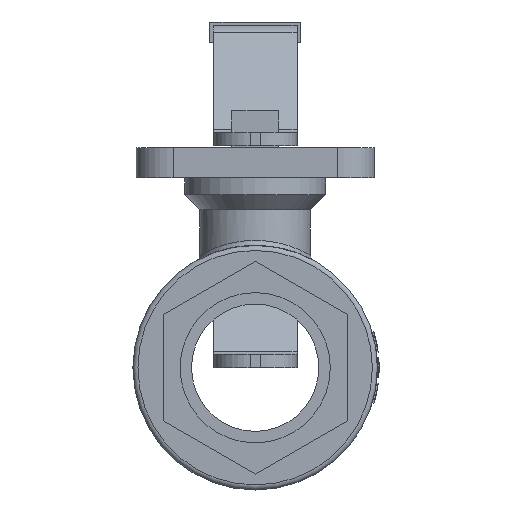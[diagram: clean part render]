
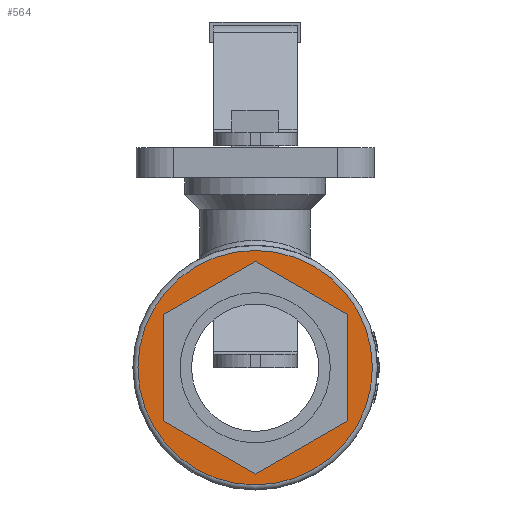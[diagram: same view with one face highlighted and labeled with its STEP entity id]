
A CAD part, left-side view. The second image highlights one B-rep face of the part: STEP entity #564.
In plain terms, the highlighted planar face has unit normal (-1, 0, 0).
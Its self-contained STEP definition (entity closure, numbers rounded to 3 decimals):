
#564 = ADVANCED_FACE( '', ( #1211, #1212 ), #1213, .T. );
#1211 = FACE_OUTER_BOUND( '', #4060, .T. );
#1212 = FACE_BOUND( '', #4061, .T. );
#1213 = PLANE( '', #4062 );
#4060 = EDGE_LOOP( '', ( #6211 ) );
#4061 = EDGE_LOOP( '', ( #6212, #6213, #6214, #6215, #6216, #6217 ) );
#4062 = AXIS2_PLACEMENT_3D( '', #6218, #6219, #6220 );
#6211 = ORIENTED_EDGE( '', *, *, #6694, .T. );
#6212 = ORIENTED_EDGE( '', *, *, #7265, .F. );
#6213 = ORIENTED_EDGE( '', *, *, #6676, .F. );
#6214 = ORIENTED_EDGE( '', *, *, #7266, .F. );
#6215 = ORIENTED_EDGE( '', *, *, #7267, .F. );
#6216 = ORIENTED_EDGE( '', *, *, #7142, .F. );
#6217 = ORIENTED_EDGE( '', *, *, #7159, .F. );
#6218 = CARTESIAN_POINT( '', ( -31.5, 6.875, 11.908 ) );
#6219 = DIRECTION( '', ( -1., 0., 0. ) );
#6220 = DIRECTION( '', ( 0., -1., 0. ) );
#6676 = EDGE_CURVE( '', #7410, #7412, #7413, .T. );
#6694 = EDGE_CURVE( '', #7443, #7443, #7444, .T. );
#7142 = EDGE_CURVE( '', #8162, #8164, #8165, .T. );
#7159 = EDGE_CURVE( '', #8183, #8162, #8185, .T. );
#7265 = EDGE_CURVE( '', #7412, #8183, #8309, .T. );
#7266 = EDGE_CURVE( '', #8310, #7410, #8311, .T. );
#7267 = EDGE_CURVE( '', #8164, #8310, #8312, .T. );
#7410 = VERTEX_POINT( '', #8661 );
#7412 = VERTEX_POINT( '', #8664 );
#7413 = LINE( '', #8665, #8666 );
#7443 = VERTEX_POINT( '', #8715 );
#7444 = CIRCLE( '', #8716, 35. );
#8162 = VERTEX_POINT( '', #12053 );
#8164 = VERTEX_POINT( '', #12056 );
#8165 = LINE( '', #12057, #12058 );
#8183 = VERTEX_POINT( '', #12186 );
#8185 = LINE( '', #12189, #12190 );
#8309 = LINE( '', #12593, #12594 );
#8310 = VERTEX_POINT( '', #12595 );
#8311 = LINE( '', #12596, #12597 );
#8312 = LINE( '', #12598, #12599 );
#8661 = CARTESIAN_POINT( '', ( -31.5, -27.5, -15.877 ) );
#8664 = CARTESIAN_POINT( '', ( -31.5, -27.5, 15.877 ) );
#8665 = CARTESIAN_POINT( '', ( -31.5, -27.5, -15.877 ) );
#8666 = VECTOR( '', #12723, 1000. );
#8715 = CARTESIAN_POINT( '', ( -31.5, -35., 0. ) );
#8716 = AXIS2_PLACEMENT_3D( '', #12733, #12734, #12735 );
#12053 = CARTESIAN_POINT( '', ( -31.5, 27.5, 15.877 ) );
#12056 = CARTESIAN_POINT( '', ( -31.5, 27.5, -15.877 ) );
#12057 = CARTESIAN_POINT( '', ( -31.5, 27.5, 15.877 ) );
#12058 = VECTOR( '', #12923, 1000. );
#12186 = CARTESIAN_POINT( '', ( -31.5, 0., 31.754 ) );
#12189 = CARTESIAN_POINT( '', ( -31.5, 0., 31.754 ) );
#12190 = VECTOR( '', #12928, 1000. );
#12593 = CARTESIAN_POINT( '', ( -31.5, -27.5, 15.877 ) );
#12594 = VECTOR( '', #12986, 1000. );
#12595 = CARTESIAN_POINT( '', ( -31.5, 0., -31.754 ) );
#12596 = CARTESIAN_POINT( '', ( -31.5, 0., -31.754 ) );
#12597 = VECTOR( '', #12987, 1000. );
#12598 = CARTESIAN_POINT( '', ( -31.5, 27.5, -15.877 ) );
#12599 = VECTOR( '', #12988, 1000. );
#12723 = DIRECTION( '', ( 0., 0., 1. ) );
#12733 = CARTESIAN_POINT( '', ( -31.5, 0., 0. ) );
#12734 = DIRECTION( '', ( -1., 0., 0. ) );
#12735 = DIRECTION( '', ( 0., -1., 0. ) );
#12923 = DIRECTION( '', ( 0., 0., -1. ) );
#12928 = DIRECTION( '', ( 0., 0.866, -0.5 ) );
#12986 = DIRECTION( '', ( 0., 0.866, 0.5 ) );
#12987 = DIRECTION( '', ( 0., -0.866, 0.5 ) );
#12988 = DIRECTION( '', ( 0., -0.866, -0.5 ) );
